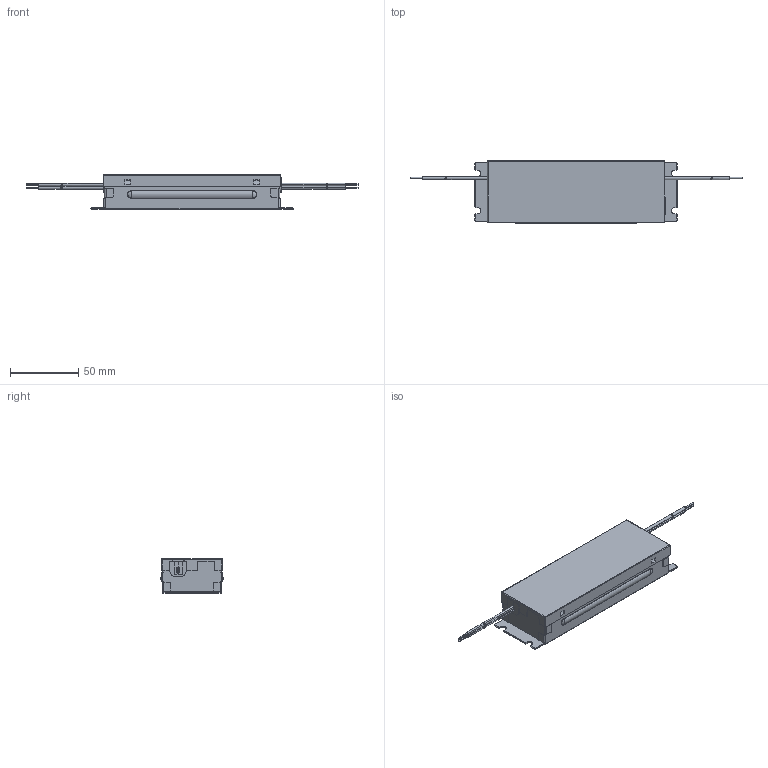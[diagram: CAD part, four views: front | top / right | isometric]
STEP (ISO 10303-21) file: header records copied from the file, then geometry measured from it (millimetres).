
FILE_DESCRIPTION((''),'2;1');
FILE_NAME('15013246Z_DMEC_147X45_2X2-300','2019-04-04T16:16:10',('juergen.hrach'),(''),'CREO PARAMETRIC BY PTC INC, 2017380','CREO PARAMETRIC BY PTC INC, 2017380','');
FILE_SCHEMA(('AUTOMOTIVE_DESIGN { 1 0 10303 214 1 1 1 1 }'));
Length unit declared in the file: millimetre
Products named in the file (1): 15013246Z_DMEC_147X45_2X2-300
Bounding box: 243.3 x 45.6 x 25.4 mm (x, y, z)
Volume: 13511.5 mm3; surface area: 51724.7 mm2
Topology: 10 solids, 10 shells, 731 faces, 1981 edges, 1256 vertices
Faces by surface type: plane 527, cylinder 188, torus 8, sphere 8
Entity records: 29806 total; most frequent: CARTESIAN_POINT 4823, ORIENTED_EDGE 3962, DIRECTION 3702, PRESENTATION_STYLE_ASSIGNMENT 1991, STYLED_ITEM 1991, CURVE_STYLE 1981, EDGE_CURVE 1981, VECTOR 1510
